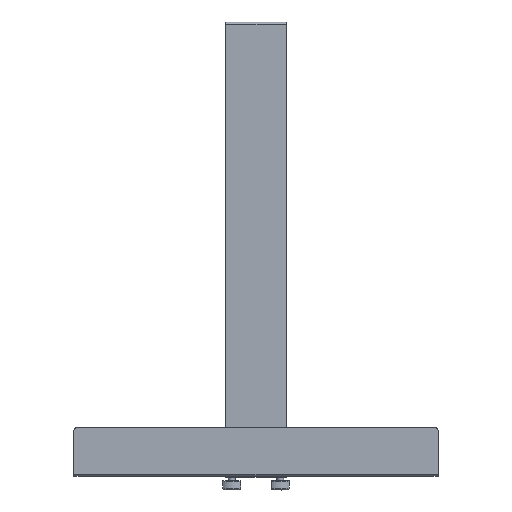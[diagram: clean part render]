
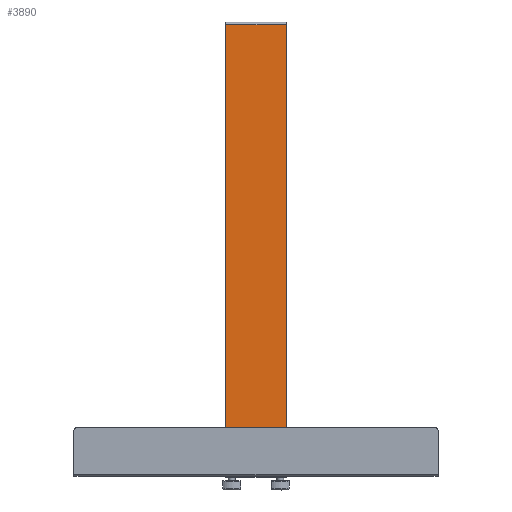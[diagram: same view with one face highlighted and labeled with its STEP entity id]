
A CAD part, top view. The second image highlights one B-rep face of the part: STEP entity #3890.
In plain terms, the highlighted planar face has unit normal (0, 0, 1).
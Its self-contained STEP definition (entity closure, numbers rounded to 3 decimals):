
#272=PLANE('',#4363);
#493=FACE_OUTER_BOUND('',#775,.T.);
#775=EDGE_LOOP('',(#3518,#3519,#3520,#3521));
#931=LINE('',#6583,#1217);
#1061=LINE('',#7011,#1347);
#1062=LINE('',#7013,#1348);
#1063=LINE('',#7014,#1349);
#1217=VECTOR('',#5072,10.);
#1347=VECTOR('',#5518,10.);
#1348=VECTOR('',#5519,10.);
#1349=VECTOR('',#5520,10.);
#1738=VERTEX_POINT('',#6311);
#1837=VERTEX_POINT('',#6581);
#1941=VERTEX_POINT('',#7010);
#1942=VERTEX_POINT('',#7012);
#2277=EDGE_CURVE('',#1738,#1837,#931,.T.);
#2472=EDGE_CURVE('',#1941,#1837,#1061,.T.);
#2473=EDGE_CURVE('',#1941,#1942,#1062,.T.);
#2474=EDGE_CURVE('',#1738,#1942,#1063,.T.);
#3518=ORIENTED_EDGE('',*,*,#2277,.T.);
#3519=ORIENTED_EDGE('',*,*,#2472,.F.);
#3520=ORIENTED_EDGE('',*,*,#2473,.T.);
#3521=ORIENTED_EDGE('',*,*,#2474,.F.);
#3890=ADVANCED_FACE('',(#493),#272,.T.);
#4363=AXIS2_PLACEMENT_3D('',#7009,#5516,#5517);
#5072=DIRECTION('',(1.,0.,0.));
#5516=DIRECTION('center_axis',(0.,0.,
1.));
#5517=DIRECTION('ref_axis',(1.,0.,0.));
#5518=DIRECTION('',(0.,-1.,0.));
#5519=DIRECTION('',(-1.,0.,0.));
#5520=DIRECTION('',(0.,1.,0.));
#6311=CARTESIAN_POINT('',(-50.,40.,31.));
#6581=CARTESIAN_POINT('',(50.,40.,31.));
#6583=CARTESIAN_POINT('',(150.,40.,31.));
#7009=CARTESIAN_POINT('Origin',(0.,373.,
31.));
#7010=CARTESIAN_POINT('',(50.,744.,31.));
#7011=CARTESIAN_POINT('',(50.,-2.,31.));
#7012=CARTESIAN_POINT('',(-50.,744.,31.));
#7013=CARTESIAN_POINT('',(25.,744.,31.));
#7014=CARTESIAN_POINT('',(-50.,748.,31.));
